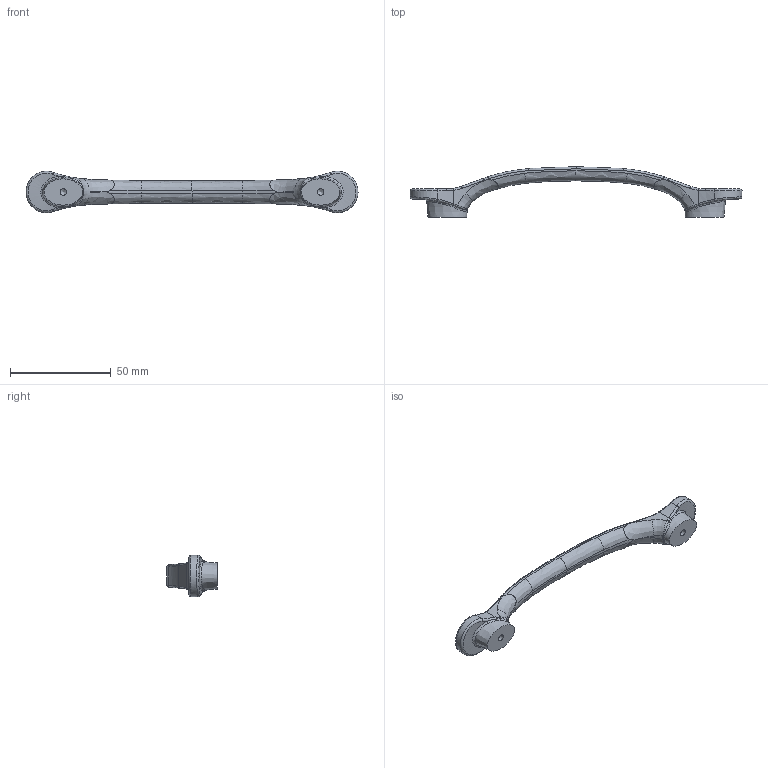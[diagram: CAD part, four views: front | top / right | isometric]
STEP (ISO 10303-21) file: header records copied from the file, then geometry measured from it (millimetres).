
FILE_DESCRIPTION(/* description */ (''),/* implementation_level */ '2;1');
FILE_NAME(/* name */ 'D:\$WorkingFolder\Designs\Meblowka\uchwyty\UZ-VENICE\UZ-VENICE-128.stp',/* time_stamp */ '2020-12-16T12:49:19+01:00',/* author */ ('ElizaL'),/* organization */ (''),/* preprocessor_version */ 'ST-DEVELOPER v18.1',/* originating_system */ 'Autodesk Inventor 2020',/* authorisation */ '');
FILE_SCHEMA (('AUTOMOTIVE_DESIGN { 1 0 10303 214 3 1 1 }'));
Length unit declared in the file: millimetre
Products named in the file (1): UZ-VENICE-128
Bounding box: 165 x 25 x 20.6 mm (x, y, z)
Volume: 16879.6 mm3; surface area: 7126 mm2
Topology: 1 solids, 1 shells, 120 faces, 297 edges, 179 vertices
Faces by surface type: bspline 76, cylinder 32, torus 6, plane 4, cone 2
Full cylindrical faces by diameter (mm): 3.242 x2
Entity records: 6080 total; most frequent: CARTESIAN_POINT 3766, ORIENTED_EDGE 590, EDGE_CURVE 295, DIRECTION 274, B_SPLINE_CURVE_WITH_KNOTS 188, VERTEX_POINT 179, EDGE_LOOP 122, AXIS2_PLACEMENT_3D 122
